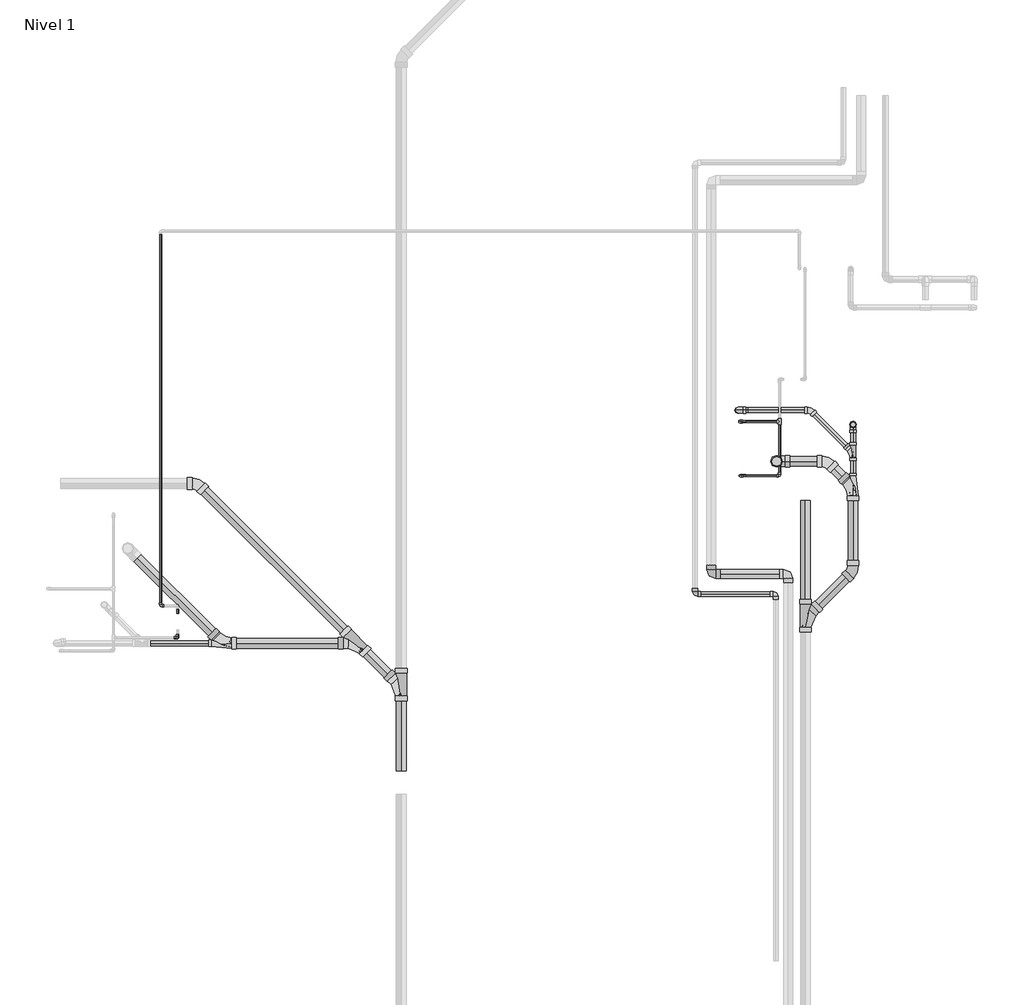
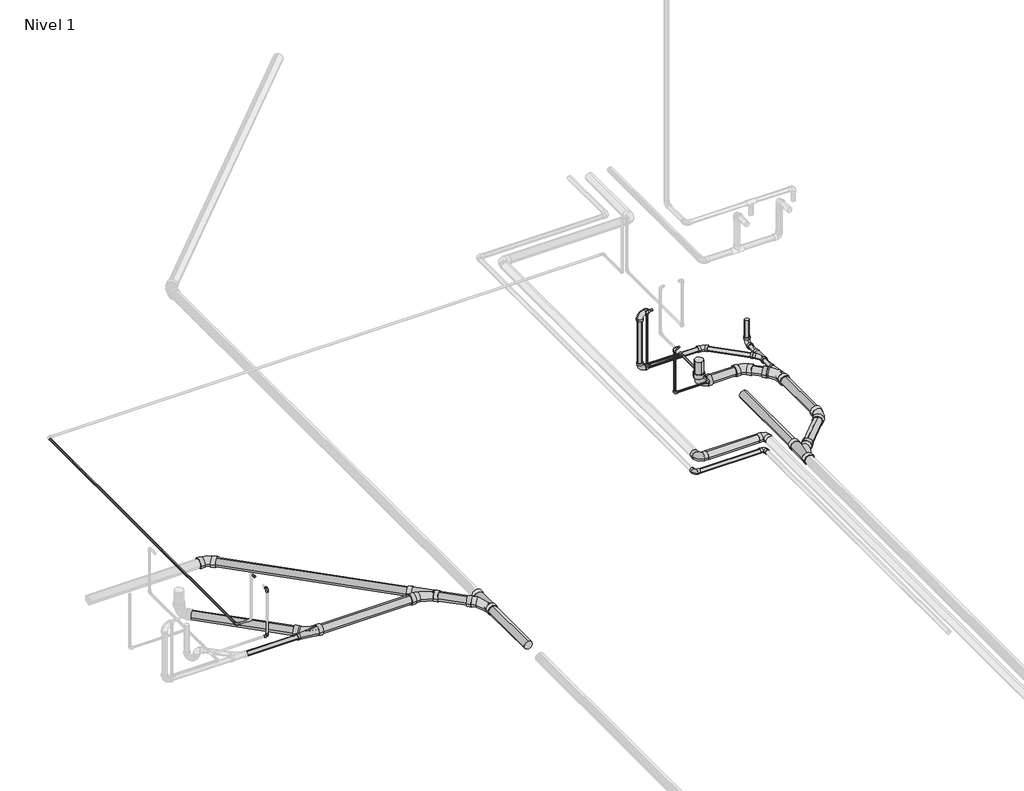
# One storey, part 2 of 3: 30 pipe segments, 27 pipe fittings.
"""IFC4 building model written with IfcOpenShell, lengths in millimetres."""

from ifc_helpers import new_model, si_unit, point, frame, frame_2d, origin, place, context, project, spatial, circle_curve, trimmed, segment, composite_curve, outline, extrude, transform, mapped, element, save
from components import pipe_fitting_ab418b84, pipe_fitting_e120c99a, pipe_fitting_0163322b, pipe_fitting_528008cb, m_codo_pvc_serie_40_457dd693, m_codo_pvc_serie_40_9ad74631, m_codo_pvc_serie_40_6fb5ae01, m_codo_pvc_serie_40_dwv1_5c0ec739, m_codo_pvc_serie_40_dwv1_f5c0a64d, m_codo_pvc_serie_40_dwv1_9a7ca077, m_codo_pvc_serie_40_dwv1_6f1a2495

model = new_model("IFC4")

# Units and contexts
model_context = context("Model", 3, world=origin())
ifc_project = project(units=[si_unit("LENGTHUNIT", "METRE", prefix="MILLI")], contexts=[model_context])

# Site, building, storey
site = spatial("IfcSite", under=ifc_project)
building = spatial("IfcBuilding", under=site)
storey = spatial("IfcBuildingStorey", under=building, Name="Nivel 1", Elevation=0.0)

# Pipe fittings
placement = place(None, origin())
pipe_fitting_shape = pipe_fitting_ab418b84(model_context)
element("IfcPipeFitting", 1, ObjectType="M_Te - PVC - Serie 40 : Estándar", at=placement, inside=storey, context=model_context, shape_type="MappedRepresentation", body=[
    mapped(pipe_fitting_shape, transform((6677.8782795, 7778.8282028, -200.0), x_axis=(0.0, -1.0, 0.0), y_axis=(1.0, 0.0, 0.0), z_axis=(0.0, 0.0, 1.0))),
])
pipe_fitting_2_shape = pipe_fitting_e120c99a(model_context)
element("IfcPipeFitting", 2, ObjectType="M_Sanitario con te de reducción - PVC - Serie 40 - DWV : Estándar", at=placement, inside=storey, context=model_context, shape_type="MappedRepresentation", body=[
    mapped(pipe_fitting_2_shape, transform((742.6986543, 5414.609291, -300.0), x_axis=(-1.0, 0.0, 0.0), y_axis=(0.0, -1.0, 0.0), z_axis=(0.0, 0.0, 1.0))),
])
element("IfcPipeFitting", 3, ObjectType="M_Sanitario con te de reducción - PVC - Serie 40 - DWV : Estándar", at=placement, inside=storey, context=model_context, shape_type="MappedRepresentation", body=[
    mapped(pipe_fitting_2_shape, transform((7460.1409493, 7078.7765457, -300.0), x_axis=(0.0, 1.0, 0.0), y_axis=(1.0, 0.0, 0.0), z_axis=(0.0, 0.0, -1.0))),
])
pipe_fitting_3_shape = pipe_fitting_0163322b(model_context)
element("IfcPipeFitting", 4, ObjectType="M_Sanitario con te de reducción - PVC - Serie 40 - DWV : Estándar", at=placement, inside=storey, context=model_context, shape_type="MappedRepresentation", body=[
    mapped(pipe_fitting_3_shape, transform((7460.1409493, 7444.8590507, -300.0), x_axis=(0.0, 1.0, 0.0), y_axis=(1.0, 0.0, 0.0), z_axis=(0.0, 0.0, -1.0))),
])
pipe_fitting_4_shape = pipe_fitting_528008cb(model_context)
element("IfcPipeFitting", 5, ObjectType="M_Sanitario con te de reducción - PVC - Serie 40 - DWV : Estándar", at=placement, inside=storey, context=model_context, shape_type="MappedRepresentation", body=[
    mapped(pipe_fitting_4_shape, transform((6952.3171047, 5680.138374, -300.0), x_axis=(0.0, 1.0, 0.0), y_axis=(-1.0, 0.0, 0.0), z_axis=(0.0, 0.0, 1.0))),
])
element("IfcPipeFitting", 6, ObjectType="M_Sanitario con te de reducción - PVC - Serie 40 - DWV : Estándar", at=placement, inside=storey, context=model_context, shape_type="MappedRepresentation", body=[
    mapped(pipe_fitting_4_shape, transform((2645.0, 4945.9167414, -300.0), x_axis=(0.0, 1.0, 0.0), y_axis=(1.0, 0.0, 0.0), z_axis=(0.0, 0.0, -1.0))),
])
element("IfcPipeFitting", 7, ObjectType="M_Sanitario con te de reducción - PVC - Serie 40 - DWV : Estándar", at=placement, inside=storey, context=model_context, shape_type="MappedRepresentation", body=[
    mapped(pipe_fitting_4_shape, transform((2176.3074504, 5414.609291, -300.0), x_axis=(-0.7071067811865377, 0.7071067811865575, 0.0), y_axis=(0.7071067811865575, 0.7071067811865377, 0.0), z_axis=(0.0, 0.0, -1.0))),
])
m_codo_pvc_serie_40_shape = m_codo_pvc_serie_40_457dd693(model_context)
element("IfcPipeFitting", 8, ObjectType="M_Codo - PVC - Serie 40 : Estándar", at=placement, inside=storey, context=model_context, shape_type="MappedRepresentation", body=[
    mapped(m_codo_pvc_serie_40_shape, transform((6636.38473, 5940.1540755, -300.0), x_axis=(0.0, 1.0, 0.0), y_axis=(-1.0, 0.0, 0.0), z_axis=(0.0, 0.0, 1.0))),
])
element("IfcPipeFitting", 9, ObjectType="M_Codo - PVC - Serie 40 : Estándar", at=placement, inside=storey, context=model_context, shape_type="MappedRepresentation", body=[
    mapped(m_codo_pvc_serie_40_shape, transform((5776.38473, 5940.1540755, -300.0), x_axis=(0.0, -1.0, 0.0), y_axis=(1.0, 0.0, 0.0), z_axis=(0.0, 0.0, 1.0))),
])
m_codo_pvc_serie_40_2_shape = m_codo_pvc_serie_40_9ad74631(model_context)
element("IfcPipeFitting", 10, ObjectType="M_Codo - PVC - Serie 40 : Estándar", at=placement, inside=storey, context=model_context, shape_type="MappedRepresentation", body=[
    mapped(m_codo_pvc_serie_40_2_shape, transform((6257.8782795, 7201.1390302, 373.1572509), x_axis=(-1.0, 0.0, 0.0), y_axis=(0.0, 0.0, -1.0), z_axis=(0.0, -1.0, 0.0))),
])
element("IfcPipeFitting", 11, ObjectType="M_Codo - PVC - Serie 40 : Estándar", at=placement, inside=storey, context=model_context, shape_type="MappedRepresentation", body=[
    mapped(m_codo_pvc_serie_40_2_shape, transform((6257.8782795, 7201.1390302, -200.0), x_axis=(0.0, 0.0, -1.0), y_axis=(1.0, 0.0, 0.0), z_axis=(0.0, -1.0, 0.0))),
])
element("IfcPipeFitting", 12, ObjectType="M_Codo - PVC - Serie 40 : Estándar", at=placement, inside=storey, context=model_context, shape_type="MappedRepresentation", body=[
    mapped(m_codo_pvc_serie_40_2_shape, transform((6252.8782795, 7778.8282028, 507.4993614), x_axis=(-1.0, 0.0, 0.0), y_axis=(0.0, 0.0, -1.0), z_axis=(0.0, -1.0, 0.0))),
])
element("IfcPipeFitting", 13, ObjectType="M_Codo - PVC - Serie 40 : Estándar", at=placement, inside=storey, context=model_context, shape_type="MappedRepresentation", body=[
    mapped(m_codo_pvc_serie_40_2_shape, transform((6252.8782795, 7778.8282028, -200.0), x_axis=(0.0, 0.0, -1.0), y_axis=(1.0, 0.0, 0.0), z_axis=(0.0, -1.0, 0.0))),
])
element("IfcPipeFitting", 14, ObjectType="M_Codo - PVC - Serie 40 : Estándar", at=placement, inside=storey, context=model_context, shape_type="MappedRepresentation", body=[
    mapped(m_codo_pvc_serie_40_2_shape, transform((6677.8782795, 7201.1390302, -200.0), x_axis=(1.0, 0.0, 0.0), y_axis=(0.0, 1.0, 0.0), z_axis=(0.0, 0.0, 1.0))),
])
element("IfcPipeFitting", 15, ObjectType="M_Codo - PVC - Serie 40 : Estándar", at=placement, inside=storey, context=model_context, shape_type="MappedRepresentation", body=[
    mapped(m_codo_pvc_serie_40_2_shape, transform((260.4324714, 5473.5673351, 400.0), x_axis=(0.0, -1.0, 0.0), y_axis=(0.0, 0.0, -1.0), z_axis=(1.0, 0.0, 0.0))),
])
element("IfcPipeFitting", 16, ObjectType="M_Codo - PVC - Serie 40 : Estándar", at=placement, inside=storey, context=model_context, shape_type="MappedRepresentation", body=[
    mapped(m_codo_pvc_serie_40_2_shape, transform((260.4324714, 5473.5673351, -200.0), x_axis=(0.0, 0.0, -1.0), y_axis=(-1.0, 0.0, 0.0), z_axis=(0.0, 1.0, 0.0))),
])
element("IfcPipeFitting", 17, ObjectType="M_Codo - PVC - Serie 40 : Estándar", at=placement, inside=storey, context=model_context, shape_type="MappedRepresentation", body=[
    mapped(m_codo_pvc_serie_40_2_shape, transform((80.4324714, 5813.5673351, -200.0), x_axis=(0.0, -1.0, 0.0), y_axis=(1.0, 0.0, 0.0), z_axis=(0.0, 0.0, 1.0))),
])
m_codo_pvc_serie_40_3_shape = m_codo_pvc_serie_40_6fb5ae01(model_context)
element("IfcPipeFitting", 18, ObjectType="M_Codo - PVC - Serie 40 : Estándar", at=placement, inside=storey, context=model_context, shape_type="MappedRepresentation", body=[
    mapped(m_codo_pvc_serie_40_3_shape, transform((6768.0875801, 6153.5650289, -300.0), x_axis=(0.0, 1.0, 0.0), y_axis=(-1.0, 0.0, 0.0), z_axis=(0.0, 0.0, 1.0))),
])
element("IfcPipeFitting", 19, ObjectType="M_Codo - PVC - Serie 40 : Estándar", at=placement, inside=storey, context=model_context, shape_type="MappedRepresentation", body=[
    mapped(m_codo_pvc_serie_40_3_shape, transform((5948.0875801, 6153.5650289, -300.0), x_axis=(0.0, -1.0, 0.0), y_axis=(1.0, 0.0, 0.0), z_axis=(0.0, 0.0, 1.0))),
])
m_codo_pvc_serie_40_dwv1_shape = m_codo_pvc_serie_40_dwv1_5c0ec739(model_context)
element("IfcPipeFitting", 20, ObjectType="M_Codo - PVC - Serie 40 - DWV1 : Estándar 2", at=placement, inside=storey, context=model_context, shape_type="MappedRepresentation", body=[
    mapped(m_codo_pvc_serie_40_dwv1_shape, transform((6235.0, 7900.0, 410.6716548), x_axis=(-1.0, 0.0, 0.0), y_axis=(0.0, 0.0, -1.0), z_axis=(0.0, -1.0, 0.0))),
])
element("IfcPipeFitting", 21, ObjectType="M_Codo - PVC - Serie 40 - DWV1 : Estándar 2", at=placement, inside=storey, context=model_context, shape_type="MappedRepresentation", body=[
    mapped(m_codo_pvc_serie_40_dwv1_shape, transform((6235.0, 7900.0, -300.0), x_axis=(0.0, 0.0, -1.0), y_axis=(1.0, 0.0, 0.0), z_axis=(0.0, -1.0, 0.0))),
])
element("IfcPipeFitting", 22, ObjectType="M_Codo - PVC - Serie 40 - DWV1 : Estándar 2", at=placement, inside=storey, context=model_context, shape_type="MappedRepresentation", body=[
    mapped(m_codo_pvc_serie_40_dwv1_shape, transform((7460.1409493, 7746.4088589, -300.0), x_axis=(0.0, 1.0, 0.0), y_axis=(0.0, 0.0, 1.0), z_axis=(1.0, 0.0, 0.0))),
])
m_codo_pvc_serie_40_dwv1_2_shape = m_codo_pvc_serie_40_dwv1_f5c0a64d(model_context)
element("IfcPipeFitting", 23, ObjectType="M_Codo - PVC - Serie 40 - DWV1 : Estándar 2", at=placement, inside=storey, context=model_context, shape_type="MappedRepresentation", body=[
    mapped(m_codo_pvc_serie_40_dwv1_2_shape, transform((6644.2960274, 7354.6214677, -300.0), x_axis=(0.0, 0.0, -1.0), y_axis=(1.0, 0.0, 0.0), z_axis=(0.0, -1.0, 0.0))),
])
m_codo_pvc_serie_40_dwv1_3_shape = m_codo_pvc_serie_40_dwv1_9a7ca077(model_context)
element("IfcPipeFitting", 24, ObjectType="M_Codo - PVC - Serie 40 - DWV1 : Estándar 2", at=placement, inside=storey, context=model_context, shape_type="MappedRepresentation", body=[
    mapped(m_codo_pvc_serie_40_dwv1_3_shape, transform((7184.2960274, 7354.6214677, -300.0), x_axis=(-0.7071067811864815, 0.7071067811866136, 0.0), y_axis=(-0.7071067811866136, -0.7071067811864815, 0.0), z_axis=(0.0, 0.0, 1.0))),
])
element("IfcPipeFitting", 25, ObjectType="M_Codo - PVC - Serie 40 - DWV1 : Estándar 2", at=placement, inside=storey, context=model_context, shape_type="MappedRepresentation", body=[
    mapped(m_codo_pvc_serie_40_dwv1_3_shape, transform((7460.1409493, 6187.9622186, -300.0), x_axis=(0.70710678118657, 0.707106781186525, 0.0), y_axis=(-0.707106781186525, 0.70710678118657, 0.0), z_axis=(0.0, 0.0, 1.0))),
])
element("IfcPipeFitting", 26, ObjectType="M_Codo - PVC - Serie 40 - DWV1 : Estándar 2", at=placement, inside=storey, context=model_context, shape_type="MappedRepresentation", body=[
    mapped(m_codo_pvc_serie_40_dwv1_3_shape, transform((471.6123434, 7119.3043981, -300.0), x_axis=(-0.7071067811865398, 0.7071067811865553, 0.0), y_axis=(-0.7071067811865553, -0.7071067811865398, 0.0), z_axis=(0.0, 0.0, 1.0))),
])
m_codo_pvc_serie_40_dwv1_4_shape = m_codo_pvc_serie_40_dwv1_6f1a2495(model_context)
element("IfcPipeFitting", 27, ObjectType="M_Codo - PVC - Serie 40 - DWV1 : Estándar 2", at=placement, inside=storey, context=model_context, shape_type="MappedRepresentation", body=[
    mapped(m_codo_pvc_serie_40_dwv1_4_shape, transform((7005.0, 7900.0, -300.0), x_axis=(-0.7071067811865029, 0.7071067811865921, 0.0), y_axis=(-0.7071067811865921, -0.7071067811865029, 0.0), z_axis=(0.0, 0.0, 1.0))),
])

# Pipe segments
element("IfcPipeSegment", 28, ObjectType="Tuberia PVC Agua Fria", at=placement, inside=storey, context=model_context, shape_type="SweptSolid", body=[
    extrude(outline(composite_curve([segment(trimmed(circle_curve(frame_2d((5940.1540755, -300.0)), 23.8125), [point((5963.9665755, -300.0))], [point((5940.1540755, -323.8125))], False, "CARTESIAN"), True, "CONTINUOUS"), segment(trimmed(circle_curve(frame_2d((5940.1540755, -300.0)), 23.8125), [point((5940.1540755, -323.8125))], [point((5916.3415755, -300.0))], False, "CARTESIAN"), True, "CONTINUOUS"), segment(trimmed(circle_curve(frame_2d((5940.1540755, -300.0)), 23.8125), [point((5916.3415755, -300.0))], [point((5940.1540755, -276.1875))], False, "CARTESIAN"), True, "CONTINUOUS"), segment(trimmed(circle_curve(frame_2d((5940.1540755, -300.0)), 23.8125), [point((5940.1540755, -276.1875))], [point((5963.9665755, -300.0))], False, "CARTESIAN"), True, "CONTINUOUS")], self_intersect=False)), frame((5835.31273, 0.0, 0.0), z_axis=(1.0, 0.0, 0.0), x_axis=(0.0, 1.0, 0.0)), (0.0, 0.0, 1.0), 742.144),
])
element("IfcPipeSegment", 29, ObjectType="Tuberia PVC Agua Fria", at=placement, inside=storey, context=model_context, shape_type="SweptSolid", body=[
    extrude(outline(composite_curve([segment(trimmed(circle_curve(frame_2d((7201.1390302, 373.1572509)), 10.31875), [point((7211.4577802, 373.1572509))], [point((7201.1390302, 362.8385009))], False, "CARTESIAN"), True, "CONTINUOUS"), segment(trimmed(circle_curve(frame_2d((7201.1390302, 373.1572509)), 10.31875), [point((7201.1390302, 362.8385009))], [point((7190.8202802, 373.1572509))], False, "CARTESIAN"), True, "CONTINUOUS"), segment(trimmed(circle_curve(frame_2d((7201.1390302, 373.1572509)), 10.31875), [point((7190.8202802, 373.1572509))], [point((7201.1390302, 383.4760009))], False, "CARTESIAN"), True, "CONTINUOUS"), segment(trimmed(circle_curve(frame_2d((7201.1390302, 373.1572509)), 10.31875), [point((7201.1390302, 383.4760009))], [point((7211.4577802, 373.1572509))], False, "CARTESIAN"), True, "CONTINUOUS")], self_intersect=False)), frame((6291.2792795, 0.0, 0.0), z_axis=(1.0, 0.0, 0.0), x_axis=(0.0, 1.0, 0.0)), (0.0, 0.0, 1.0), 26.599),
])
element("IfcPipeSegment", 30, ObjectType="Tuberia PVC Agua Fria", at=placement, inside=storey, context=model_context, shape_type="SweptSolid", body=[
    extrude(outline(composite_curve([segment(trimmed(circle_curve(frame_2d((7201.1390302, -200.0)), 10.31875), [point((7190.8202802, -200.0))], [point((7201.1390302, -189.68125))], False, "CARTESIAN"), True, "CONTINUOUS"), segment(trimmed(circle_curve(frame_2d((7201.1390302, -200.0)), 10.31875), [point((7201.1390302, -189.68125))], [point((7211.4577802, -200.0))], False, "CARTESIAN"), True, "CONTINUOUS"), segment(trimmed(circle_curve(frame_2d((7201.1390302, -200.0)), 10.31875), [point((7211.4577802, -200.0))], [point((7201.1390302, -210.31875))], False, "CARTESIAN"), True, "CONTINUOUS"), segment(trimmed(circle_curve(frame_2d((7201.1390302, -200.0)), 10.31875), [point((7201.1390302, -210.31875))], [point((7190.8202802, -200.0))], False, "CARTESIAN"), True, "CONTINUOUS")], self_intersect=False)), frame((6291.2792795, 0.0, 0.0), z_axis=(1.0, 0.0, 0.0), x_axis=(0.0, 1.0, 0.0)), (0.0, 0.0, 1.0), 353.198),
])
element("IfcPipeSegment", 31, ObjectType="Tuberia PVC Agua Fria", at=placement, inside=storey, context=model_context, shape_type="SweptSolid", body=[
    extrude(outline(composite_curve([segment(trimmed(circle_curve(frame_2d((6257.8782795, 7201.1390302)), 10.31875), [point((6268.1970295, 7201.1390302))], [point((6257.8782795, 7190.8202802))], False, "CARTESIAN"), True, "CONTINUOUS"), segment(trimmed(circle_curve(frame_2d((6257.8782795, 7201.1390302)), 10.31875), [point((6257.8782795, 7190.8202802))], [point((6247.5595295, 7201.1390302))], False, "CARTESIAN"), True, "CONTINUOUS"), segment(trimmed(circle_curve(frame_2d((6257.8782795, 7201.1390302)), 10.31875), [point((6247.5595295, 7201.1390302))], [point((6257.8782795, 7211.4577802))], False, "CARTESIAN"), True, "CONTINUOUS"), segment(trimmed(circle_curve(frame_2d((6257.8782795, 7201.1390302)), 10.31875), [point((6257.8782795, 7211.4577802))], [point((6268.1970295, 7201.1390302))], False, "CARTESIAN"), True, "CONTINUOUS")], self_intersect=False)), frame((0.0, 0.0, -166.599), z_axis=(0.0, 0.0, 1.0), x_axis=(1.0, 0.0, 0.0)), (0.0, 0.0, 1.0), 506.3552509),
])
element("IfcPipeSegment", 32, ObjectType="Tuberia PVC Agua Fria", at=placement, inside=storey, context=model_context, shape_type="SweptSolid", body=[
    extrude(outline(composite_curve([segment(trimmed(circle_curve(frame_2d((7778.8282028, 507.4993614)), 10.31875), [point((7789.1469528, 507.4993614))], [point((7778.8282028, 497.1806114))], False, "CARTESIAN"), True, "CONTINUOUS"), segment(trimmed(circle_curve(frame_2d((7778.8282028, 507.4993614)), 10.31875), [point((7778.8282028, 497.1806114))], [point((7768.5094528, 507.4993614))], False, "CARTESIAN"), True, "CONTINUOUS"), segment(trimmed(circle_curve(frame_2d((7778.8282028, 507.4993614)), 10.31875), [point((7768.5094528, 507.4993614))], [point((7778.8282028, 517.8181114))], False, "CARTESIAN"), True, "CONTINUOUS"), segment(trimmed(circle_curve(frame_2d((7778.8282028, 507.4993614)), 10.31875), [point((7778.8282028, 517.8181114))], [point((7789.1469528, 507.4993614))], False, "CARTESIAN"), True, "CONTINUOUS")], self_intersect=False)), frame((6286.2792795, 0.0, 0.0), z_axis=(1.0, 0.0, 0.0), x_axis=(0.0, 1.0, 0.0)), (0.0, 0.0, 1.0), 31.599),
])
element("IfcPipeSegment", 33, ObjectType="Tuberia PVC Agua Fria", at=placement, inside=storey, context=model_context, shape_type="SweptSolid", body=[
    extrude(outline(composite_curve([segment(trimmed(circle_curve(frame_2d((7778.8282028, -200.0)), 10.31875), [point((7768.5094528, -200.0))], [point((7778.8282028, -189.68125))], False, "CARTESIAN"), True, "CONTINUOUS"), segment(trimmed(circle_curve(frame_2d((7778.8282028, -200.0)), 10.31875), [point((7778.8282028, -189.68125))], [point((7789.1469528, -200.0))], False, "CARTESIAN"), True, "CONTINUOUS"), segment(trimmed(circle_curve(frame_2d((7778.8282028, -200.0)), 10.31875), [point((7789.1469528, -200.0))], [point((7778.8282028, -210.31875))], False, "CARTESIAN"), True, "CONTINUOUS"), segment(trimmed(circle_curve(frame_2d((7778.8282028, -200.0)), 10.31875), [point((7778.8282028, -210.31875))], [point((7768.5094528, -200.0))], False, "CARTESIAN"), True, "CONTINUOUS")], self_intersect=False)), frame((6286.2792795, 0.0, 0.0), z_axis=(1.0, 0.0, 0.0), x_axis=(0.0, 1.0, 0.0)), (0.0, 0.0, 1.0), 361.1388438),
])
element("IfcPipeSegment", 34, ObjectType="Tuberia PVC Agua Fria", at=placement, inside=storey, context=model_context, shape_type="SweptSolid", body=[
    extrude(outline(composite_curve([segment(trimmed(circle_curve(frame_2d((6252.8782795, 7778.8282028)), 10.31875), [point((6263.1970295, 7778.8282028))], [point((6252.8782795, 7768.5094528))], False, "CARTESIAN"), True, "CONTINUOUS"), segment(trimmed(circle_curve(frame_2d((6252.8782795, 7778.8282028)), 10.31875), [point((6252.8782795, 7768.5094528))], [point((6242.5595295, 7778.8282028))], False, "CARTESIAN"), True, "CONTINUOUS"), segment(trimmed(circle_curve(frame_2d((6252.8782795, 7778.8282028)), 10.31875), [point((6242.5595295, 7778.8282028))], [point((6252.8782795, 7789.1469528))], False, "CARTESIAN"), True, "CONTINUOUS"), segment(trimmed(circle_curve(frame_2d((6252.8782795, 7778.8282028)), 10.31875), [point((6252.8782795, 7789.1469528))], [point((6263.1970295, 7778.8282028))], False, "CARTESIAN"), True, "CONTINUOUS")], self_intersect=False)), frame((0.0, 0.0, -166.599), z_axis=(0.0, 0.0, 1.0), x_axis=(1.0, 0.0, 0.0)), (0.0, 0.0, 1.0), 640.6973614),
])
element("IfcPipeSegment", 35, ObjectType="Tuberia PVC Agua Fria", at=placement, inside=storey, context=model_context, shape_type="SweptSolid", body=[
    extrude(outline(composite_curve([segment(trimmed(circle_curve(frame_2d((-200.0, 6677.8782795)), 10.31875), [point((-200.0, 6688.1970295))], [point((-189.68125, 6677.8782795))], False, "CARTESIAN"), True, "CONTINUOUS"), segment(trimmed(circle_curve(frame_2d((-200.0, 6677.8782795)), 10.31875), [point((-189.68125, 6677.8782795))], [point((-200.0, 6667.5595295))], False, "CARTESIAN"), True, "CONTINUOUS"), segment(trimmed(circle_curve(frame_2d((-200.0, 6677.8782795)), 10.31875), [point((-200.0, 6667.5595295))], [point((-210.31875, 6677.8782795))], False, "CARTESIAN"), True, "CONTINUOUS"), segment(trimmed(circle_curve(frame_2d((-200.0, 6677.8782795)), 10.31875), [point((-210.31875, 6677.8782795))], [point((-200.0, 6688.1970295))], False, "CARTESIAN"), True, "CONTINUOUS")], self_intersect=False)), frame((0.0, 7234.5400302, 0.0), z_axis=(0.0, 1.0, 0.0), x_axis=(0.0, 0.0, 1.0)), (0.0, 0.0, 1.0), 513.8280164),
])
element("IfcPipeSegment", 36, ObjectType="Tuberia PVC Agua Fria", at=placement, inside=storey, context=model_context, shape_type="SweptSolid", body=[
    extrude(outline(composite_curve([segment(trimmed(circle_curve(frame_2d((-200.0, 80.4324714)), 10.31875), [point((-200.0, 70.1137214))], [point((-210.31875, 80.4324714))], False, "CARTESIAN"), True, "CONTINUOUS"), segment(trimmed(circle_curve(frame_2d((-200.0, 80.4324714)), 10.31875), [point((-210.31875, 80.4324714))], [point((-200.0, 90.7512214))], False, "CARTESIAN"), True, "CONTINUOUS"), segment(trimmed(circle_curve(frame_2d((-200.0, 80.4324714)), 10.31875), [point((-200.0, 90.7512214))], [point((-189.68125, 80.4324714))], False, "CARTESIAN"), True, "CONTINUOUS"), segment(trimmed(circle_curve(frame_2d((-200.0, 80.4324714)), 10.31875), [point((-189.68125, 80.4324714))], [point((-200.0, 70.1137214))], False, "CARTESIAN"), True, "CONTINUOUS")], self_intersect=False)), frame((0.0, 5846.9683351, 0.0), z_axis=(0.0, 1.0, 0.0), x_axis=(0.0, 0.0, 1.0)), (0.0, 0.0, 1.0), 3930.9098457),
])
element("IfcPipeSegment", 37, ObjectType="Tuberia PVC Agua Fria", at=placement, inside=storey, context=model_context, shape_type="SweptSolid", body=[
    extrude(outline(composite_curve([segment(trimmed(circle_curve(frame_2d((6153.5650289, -300.0)), 49.2125), [point((6202.7775289, -300.0))], [point((6153.5650289, -349.2125))], False, "CARTESIAN"), True, "CONTINUOUS"), segment(trimmed(circle_curve(frame_2d((6153.5650289, -300.0)), 49.2125), [point((6153.5650289, -349.2125))], [point((6104.3525289, -300.0))], False, "CARTESIAN"), True, "CONTINUOUS"), segment(trimmed(circle_curve(frame_2d((6153.5650289, -300.0)), 49.2125), [point((6104.3525289, -300.0))], [point((6153.5650289, -250.7875))], False, "CARTESIAN"), True, "CONTINUOUS"), segment(trimmed(circle_curve(frame_2d((6153.5650289, -300.0)), 49.2125), [point((6153.5650289, -250.7875))], [point((6202.7775289, -300.0))], False, "CARTESIAN"), True, "CONTINUOUS")], self_intersect=False)), frame((6045.3060801, 0.0, 0.0), z_axis=(1.0, 0.0, 0.0), x_axis=(0.0, 1.0, 0.0)), (0.0, 0.0, 1.0), 625.563),
])
element("IfcPipeSegment", 38, ObjectType="Tuberia PVC Agua Fria", at=placement, inside=storey, context=model_context, shape_type="SweptSolid", body=[
    extrude(outline(composite_curve([segment(trimmed(circle_curve(frame_2d((400.0, 260.4324714)), 10.31875), [point((400.0, 250.1137214))], [point((389.68125, 260.4324714))], False, "CARTESIAN"), True, "CONTINUOUS"), segment(trimmed(circle_curve(frame_2d((400.0, 260.4324714)), 10.31875), [point((389.68125, 260.4324714))], [point((400.0, 270.7512214))], False, "CARTESIAN"), True, "CONTINUOUS"), segment(trimmed(circle_curve(frame_2d((400.0, 260.4324714)), 10.31875), [point((400.0, 270.7512214))], [point((410.31875, 260.4324714))], False, "CARTESIAN"), True, "CONTINUOUS"), segment(trimmed(circle_curve(frame_2d((400.0, 260.4324714)), 10.31875), [point((410.31875, 260.4324714))], [point((400.0, 250.1137214))], False, "CARTESIAN"), True, "CONTINUOUS")], self_intersect=False)), frame((0.0, 5732.5673351, 0.0), z_axis=(0.0, 1.0, 0.0), x_axis=(0.0, 0.0, 1.0)), (0.0, 0.0, 1.0), 47.599),
])
element("IfcPipeSegment", 39, ObjectType="Tuberia PVC Sanitario", at=placement, inside=storey, context=model_context, shape_type="SweptSolid", body=[
    extrude(outline(composite_curve([segment(trimmed(circle_curve(frame_2d((5414.609291, -300.0)), 26.9875), [point((5387.621791, -300.0))], [point((5414.609291, -273.0125))], False, "CARTESIAN"), True, "CONTINUOUS"), segment(trimmed(circle_curve(frame_2d((5414.609291, -300.0)), 26.9875), [point((5414.609291, -273.0125))], [point((5441.596791, -300.0))], False, "CARTESIAN"), True, "CONTINUOUS"), segment(trimmed(circle_curve(frame_2d((5414.609291, -300.0)), 26.9875), [point((5441.596791, -300.0))], [point((5414.609291, -326.9875))], False, "CARTESIAN"), True, "CONTINUOUS"), segment(trimmed(circle_curve(frame_2d((5414.609291, -300.0)), 26.9875), [point((5414.609291, -326.9875))], [point((5387.621791, -300.0))], False, "CARTESIAN"), True, "CONTINUOUS")], self_intersect=False)), frame((-29.6363243, 0.0, 0.0), z_axis=(1.0, 0.0, 0.0), x_axis=(0.0, 1.0, 0.0)), (0.0, 0.0, 1.0), 624.7026653),
])
element("IfcPipeSegment", 40, ObjectType="Tuberia PVC Sanitario", at=placement, inside=storey, context=model_context, shape_type="SweptSolid", body=[
    extrude(outline(composite_curve([segment(trimmed(circle_curve(frame_2d((0.0, -52.3875)), 52.3875), [point((-52.3875, -52.3875))], [point((0.0, 0.0))], False, "CARTESIAN"), True, "CONTINUOUS"), segment(trimmed(circle_curve(frame_2d((0.0, -52.3875)), 52.3875), [point((0.0, 0.0))], [point((52.3875, -52.3875))], False, "CARTESIAN"), True, "CONTINUOUS"), segment(trimmed(circle_curve(frame_2d((0.0, -52.3875)), 52.3875), [point((52.3875, -52.3875))], [point((0.0, -104.775))], False, "CARTESIAN"), True, "CONTINUOUS"), segment(trimmed(circle_curve(frame_2d((0.0, -52.3875)), 52.3875), [point((0.0, -104.775))], [point((-52.3875, -52.3875))], False, "CARTESIAN"), True, "CONTINUOUS")], self_intersect=False)), frame((628.0217688, 5529.2861765, -352.3875), z_axis=(-0.7071067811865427, 0.7071067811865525, 0.0), x_axis=(0.7071067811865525, 0.7071067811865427, 0.0)), (0.0, 0.0, 1.0), 1126.2561424),
])
element("IfcPipeSegment", 41, ObjectType="Tuberia PVC Sanitario", at=placement, inside=storey, context=model_context, shape_type="SweptSolid", body=[
    extrude(outline(composite_curve([segment(trimmed(circle_curve(frame_2d((5414.609291, -300.0)), 52.3875), [point((5362.221791, -300.0))], [point((5414.609291, -247.6125))], False, "CARTESIAN"), True, "CONTINUOUS"), segment(trimmed(circle_curve(frame_2d((5414.609291, -300.0)), 52.3875), [point((5414.609291, -247.6125))], [point((5466.996791, -300.0))], False, "CARTESIAN"), True, "CONTINUOUS"), segment(trimmed(circle_curve(frame_2d((5414.609291, -300.0)), 52.3875), [point((5466.996791, -300.0))], [point((5414.609291, -352.3875))], False, "CARTESIAN"), True, "CONTINUOUS"), segment(trimmed(circle_curve(frame_2d((5414.609291, -300.0)), 52.3875), [point((5414.609291, -352.3875))], [point((5362.221791, -300.0))], False, "CARTESIAN"), True, "CONTINUOUS")], self_intersect=False)), frame((886.593369, 0.0, 0.0), z_axis=(1.0, 0.0, 0.0), x_axis=(0.0, 1.0, 0.0)), (0.0, 0.0, 1.0), 1088.7417682),
])
element("IfcPipeSegment", 42, ObjectType="Tuberia PVC Sanitario", at=placement, inside=storey, context=model_context, shape_type="SweptSolid", body=[
    extrude(outline(composite_curve([segment(trimmed(circle_curve(frame_2d((7354.6214677, -300.0)), 52.3875), [point((7302.2339677, -300.0))], [point((7354.6214677, -247.6125))], False, "CARTESIAN"), True, "CONTINUOUS"), segment(trimmed(circle_curve(frame_2d((7354.6214677, -300.0)), 52.3875), [point((7354.6214677, -247.6125))], [point((7407.0089677, -300.0))], False, "CARTESIAN"), True, "CONTINUOUS"), segment(trimmed(circle_curve(frame_2d((7354.6214677, -300.0)), 52.3875), [point((7407.0089677, -300.0))], [point((7354.6214677, -352.3875))], False, "CARTESIAN"), True, "CONTINUOUS"), segment(trimmed(circle_curve(frame_2d((7354.6214677, -300.0)), 52.3875), [point((7354.6214677, -352.3875))], [point((7302.2339677, -300.0))], False, "CARTESIAN"), True, "CONTINUOUS")], self_intersect=False)), frame((6785.7660899, 0.0, 0.0), z_axis=(1.0, 0.0, 0.0), x_axis=(0.0, 1.0, 0.0)), (0.0, 0.0, 1.0), 291.36575),
])
element("IfcPipeSegment", 43, ObjectType="Tuberia PVC Sanitario", at=placement, inside=storey, context=model_context, shape_type="SweptSolid", body=[
    extrude(outline(composite_curve([segment(trimmed(circle_curve(frame_2d((6644.2960274, 7354.6214677)), 52.3875), [point((6696.6835274, 7354.6214677))], [point((6644.2960274, 7302.2339677))], False, "CARTESIAN"), True, "CONTINUOUS"), segment(trimmed(circle_curve(frame_2d((6644.2960274, 7354.6214677)), 52.3875), [point((6644.2960274, 7302.2339677))], [point((6591.9085274, 7354.6214677))], False, "CARTESIAN"), True, "CONTINUOUS"), segment(trimmed(circle_curve(frame_2d((6644.2960274, 7354.6214677)), 52.3875), [point((6591.9085274, 7354.6214677))], [point((6644.2960274, 7407.0089677))], False, "CARTESIAN"), True, "CONTINUOUS"), segment(trimmed(circle_curve(frame_2d((6644.2960274, 7354.6214677)), 52.3875), [point((6644.2960274, 7407.0089677))], [point((6696.6835274, 7354.6214677))], False, "CARTESIAN"), True, "CONTINUOUS")], self_intersect=False)), frame((0.0, 0.0, -158.5299375), z_axis=(0.0, 0.0, 1.0), x_axis=(1.0, 0.0, 0.0)), (0.0, 0.0, 1.0), 158.5299375),
])
element("IfcPipeSegment", 44, ObjectType="Tuberia PVC Sanitario", at=placement, inside=storey, context=model_context, shape_type="SweptSolid", body=[
    extrude(outline(composite_curve([segment(trimmed(circle_curve(frame_2d((7900.0, 410.6716548)), 26.9875), [point((7926.9875, 410.6716548))], [point((7900.0, 383.6841548))], False, "CARTESIAN"), True, "CONTINUOUS"), segment(trimmed(circle_curve(frame_2d((7900.0, 410.6716548)), 26.9875), [point((7900.0, 383.6841548))], [point((7873.0125, 410.6716548))], False, "CARTESIAN"), True, "CONTINUOUS"), segment(trimmed(circle_curve(frame_2d((7900.0, 410.6716548)), 26.9875), [point((7873.0125, 410.6716548))], [point((7900.0, 437.6591548))], False, "CARTESIAN"), True, "CONTINUOUS"), segment(trimmed(circle_curve(frame_2d((7900.0, 410.6716548)), 26.9875), [point((7900.0, 437.6591548))], [point((7926.9875, 410.6716548))], False, "CARTESIAN"), True, "CONTINUOUS")], self_intersect=False)), frame((6317.5420625, 0.0, 0.0), z_axis=(1.0, 0.0, 0.0), x_axis=(0.0, 1.0, 0.0)), (0.0, 0.0, 1.0), 17.4579375),
])
element("IfcPipeSegment", 45, ObjectType="Tuberia PVC Sanitario", at=placement, inside=storey, context=model_context, shape_type="SweptSolid", body=[
    extrude(outline(composite_curve([segment(trimmed(circle_curve(frame_2d((7900.0, -300.0)), 26.9875), [point((7873.0125, -300.0))], [point((7900.0, -273.0125))], False, "CARTESIAN"), True, "CONTINUOUS"), segment(trimmed(circle_curve(frame_2d((7900.0, -300.0)), 26.9875), [point((7900.0, -273.0125))], [point((7926.9875, -300.0))], False, "CARTESIAN"), True, "CONTINUOUS"), segment(trimmed(circle_curve(frame_2d((7900.0, -300.0)), 26.9875), [point((7926.9875, -300.0))], [point((7900.0, -326.9875))], False, "CARTESIAN"), True, "CONTINUOUS"), segment(trimmed(circle_curve(frame_2d((7900.0, -300.0)), 26.9875), [point((7900.0, -326.9875))], [point((7873.0125, -300.0))], False, "CARTESIAN"), True, "CONTINUOUS")], self_intersect=False)), frame((6317.5420625, 0.0, 0.0), z_axis=(1.0, 0.0, 0.0), x_axis=(0.0, 1.0, 0.0)), (0.0, 0.0, 1.0), 627.02975),
])
element("IfcPipeSegment", 46, ObjectType="Tuberia PVC Sanitario", at=placement, inside=storey, context=model_context, shape_type="SweptSolid", body=[
    extrude(outline(composite_curve([segment(trimmed(circle_curve(frame_2d((6235.0, 7900.0)), 26.9875), [point((6261.9875, 7900.0))], [point((6235.0, 7873.0125))], False, "CARTESIAN"), True, "CONTINUOUS"), segment(trimmed(circle_curve(frame_2d((6235.0, 7900.0)), 26.9875), [point((6235.0, 7873.0125))], [point((6208.0125, 7900.0))], False, "CARTESIAN"), True, "CONTINUOUS"), segment(trimmed(circle_curve(frame_2d((6235.0, 7900.0)), 26.9875), [point((6208.0125, 7900.0))], [point((6235.0, 7926.9875))], False, "CARTESIAN"), True, "CONTINUOUS"), segment(trimmed(circle_curve(frame_2d((6235.0, 7900.0)), 26.9875), [point((6235.0, 7926.9875))], [point((6261.9875, 7900.0))], False, "CARTESIAN"), True, "CONTINUOUS")], self_intersect=False)), frame((0.0, 0.0, -217.4579375), z_axis=(0.0, 0.0, 1.0), x_axis=(1.0, 0.0, 0.0)), (0.0, 0.0, 1.0), 545.5875298),
])
element("IfcPipeSegment", 47, ObjectType="Tuberia PVC Sanitario", at=placement, inside=storey, context=model_context, shape_type="SweptSolid", body=[
    extrude(outline(composite_curve([segment(trimmed(circle_curve(frame_2d((-300.0, 7460.1409493)), 52.3875), [point((-300.0, 7407.7534493))], [point((-352.3875, 7460.1409493))], False, "CARTESIAN"), True, "CONTINUOUS"), segment(trimmed(circle_curve(frame_2d((-300.0, 7460.1409493)), 52.3875), [point((-352.3875, 7460.1409493))], [point((-300.0, 7512.5284493))], False, "CARTESIAN"), True, "CONTINUOUS"), segment(trimmed(circle_curve(frame_2d((-300.0, 7460.1409493)), 52.3875), [point((-300.0, 7512.5284493))], [point((-247.6125, 7460.1409493))], False, "CARTESIAN"), True, "CONTINUOUS"), segment(trimmed(circle_curve(frame_2d((-300.0, 7460.1409493)), 52.3875), [point((-247.6125, 7460.1409493))], [point((-300.0, 7407.7534493))], False, "CARTESIAN"), True, "CONTINUOUS")], self_intersect=False)), frame((0.0, 6295.1264061, 0.0), z_axis=(0.0, 1.0, 0.0), x_axis=(0.0, 0.0, 1.0)), (0.0, 0.0, 1.0), 639.7554249),
])
element("IfcPipeSegment", 48, ObjectType="Tuberia PVC Sanitario", at=placement, inside=storey, context=model_context, shape_type="SweptSolid", body=[
    extrude(outline(composite_curve([segment(trimmed(circle_curve(frame_2d((0.0, 52.3875)), 52.3875), [point((52.3875, 52.3875))], [point((0.0, 0.0))], False, "CARTESIAN"), True, "CONTINUOUS"), segment(trimmed(circle_curve(frame_2d((0.0, 52.3875)), 52.3875), [point((0.0, 0.0))], [point((-52.3875, 52.3875))], False, "CARTESIAN"), True, "CONTINUOUS"), segment(trimmed(circle_curve(frame_2d((0.0, 52.3875)), 52.3875), [point((-52.3875, 52.3875))], [point((0.0, 104.775))], False, "CARTESIAN"), True, "CONTINUOUS"), segment(trimmed(circle_curve(frame_2d((0.0, 52.3875)), 52.3875), [point((0.0, 104.775))], [point((52.3875, 52.3875))], False, "CARTESIAN"), True, "CONTINUOUS")], self_intersect=False)), frame((7345.4640638, 7193.4534312, -247.6125), z_axis=(-0.7071067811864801, 0.7071067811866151, 0.0), x_axis=(0.7071067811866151, 0.7071067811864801, 0.0)), (0.0, 0.0, 1.0), 120.7618355),
])
element("IfcPipeSegment", 49, ObjectType="Tuberia PVC Sanitario", at=placement, inside=storey, context=model_context, shape_type="SweptSolid", body=[
    extrude(outline(composite_curve([segment(trimmed(circle_curve(frame_2d((0.0, 26.9875)), 26.9875), [point((26.9875, 26.9875))], [point((0.0, 0.0))], False, "CARTESIAN"), True, "CONTINUOUS"), segment(trimmed(circle_curve(frame_2d((0.0, 26.9875)), 26.9875), [point((0.0, 0.0))], [point((-26.9875, 26.9875))], False, "CARTESIAN"), True, "CONTINUOUS"), segment(trimmed(circle_curve(frame_2d((0.0, 26.9875)), 26.9875), [point((-26.9875, 26.9875))], [point((0.0, 53.975))], False, "CARTESIAN"), True, "CONTINUOUS"), segment(trimmed(circle_curve(frame_2d((0.0, 26.9875)), 26.9875), [point((0.0, 53.975))], [point((26.9875, 26.9875))], False, "CARTESIAN"), True, "CONTINUOUS")], self_intersect=False)), frame((7383.1811395, 7521.8188605, -273.0125), z_axis=(-0.7071067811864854, 0.7071067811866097, 0.0), x_axis=(0.7071067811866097, 0.7071067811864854, 0.0)), (0.0, 0.0, 1.0), 474.400709),
])
element("IfcPipeSegment", 50, ObjectType="Tuberia PVC Sanitario", at=placement, inside=storey, context=model_context, shape_type="SweptSolid", body=[
    extrude(outline(composite_curve([segment(trimmed(circle_curve(frame_2d((-300.0, 7460.1409493)), 26.9875), [point((-300.0, 7487.1284493))], [point((-273.0125, 7460.1409493))], False, "CARTESIAN"), True, "CONTINUOUS"), segment(trimmed(circle_curve(frame_2d((-300.0, 7460.1409493)), 26.9875), [point((-273.0125, 7460.1409493))], [point((-300.0, 7433.1534493))], False, "CARTESIAN"), True, "CONTINUOUS"), segment(trimmed(circle_curve(frame_2d((-300.0, 7460.1409493)), 26.9875), [point((-300.0, 7433.1534493))], [point((-326.9875, 7460.1409493))], False, "CARTESIAN"), True, "CONTINUOUS"), segment(trimmed(circle_curve(frame_2d((-300.0, 7460.1409493)), 26.9875), [point((-326.9875, 7460.1409493))], [point((-300.0, 7487.1284493))], False, "CARTESIAN"), True, "CONTINUOUS")], self_intersect=False)), frame((0.0, 7553.6966574, 0.0), z_axis=(0.0, 1.0, 0.0), x_axis=(0.0, 0.0, 1.0)), (0.0, 0.0, 1.0), 110.1701389),
])
element("IfcPipeSegment", 51, ObjectType="Tuberia PVC Sanitario", at=placement, inside=storey, context=model_context, shape_type="SweptSolid", body=[
    extrude(outline(composite_curve([segment(trimmed(circle_curve(frame_2d((-300.0, 7460.1409493)), 26.9875), [point((-300.0, 7487.1284493))], [point((-273.0125, 7460.1409493))], False, "CARTESIAN"), True, "CONTINUOUS"), segment(trimmed(circle_curve(frame_2d((-300.0, 7460.1409493)), 26.9875), [point((-273.0125, 7460.1409493))], [point((-300.0, 7433.1534493))], False, "CARTESIAN"), True, "CONTINUOUS"), segment(trimmed(circle_curve(frame_2d((-300.0, 7460.1409493)), 26.9875), [point((-300.0, 7433.1534493))], [point((-326.9875, 7460.1409493))], False, "CARTESIAN"), True, "CONTINUOUS"), segment(trimmed(circle_curve(frame_2d((-300.0, 7460.1409493)), 26.9875), [point((-326.9875, 7460.1409493))], [point((-300.0, 7487.1284493))], False, "CARTESIAN"), True, "CONTINUOUS")], self_intersect=False)), frame((0.0, 7226.4088589, 0.0), z_axis=(0.0, 1.0, 0.0), x_axis=(0.0, 0.0, 1.0)), (0.0, 0.0, 1.0), 138.5157251),
])
element("IfcPipeSegment", 52, ObjectType="Tuberia PVC Sanitario", at=placement, inside=storey, context=model_context, shape_type="SweptSolid", body=[
    extrude(outline(composite_curve([segment(trimmed(circle_curve(frame_2d((7460.1409493, 7746.4088589)), 26.9875), [point((7433.1534493, 7746.4088589))], [point((7460.1409493, 7773.3963589))], False, "CARTESIAN"), True, "CONTINUOUS"), segment(trimmed(circle_curve(frame_2d((7460.1409493, 7746.4088589)), 26.9875), [point((7460.1409493, 7773.3963589))], [point((7487.1284493, 7746.4088589))], False, "CARTESIAN"), True, "CONTINUOUS"), segment(trimmed(circle_curve(frame_2d((7460.1409493, 7746.4088589)), 26.9875), [point((7487.1284493, 7746.4088589))], [point((7460.1409493, 7719.4213589))], False, "CARTESIAN"), True, "CONTINUOUS"), segment(trimmed(circle_curve(frame_2d((7460.1409493, 7746.4088589)), 26.9875), [point((7460.1409493, 7719.4213589))], [point((7433.1534493, 7746.4088589))], False, "CARTESIAN"), True, "CONTINUOUS")], self_intersect=False)), frame((0.0, 0.0, -217.4579375), z_axis=(0.0, 0.0, 1.0), x_axis=(1.0, 0.0, 0.0)), (0.0, 0.0, 1.0), 217.4579375),
])
element("IfcPipeSegment", 53, ObjectType="Tuberia PVC Sanitario", at=placement, inside=storey, context=model_context, shape_type="SweptSolid", body=[
    extrude(outline(composite_curve([segment(trimmed(circle_curve(frame_2d((0.0, 52.3875)), 52.3875), [point((52.3875, 52.3875))], [point((0.0, 0.0))], False, "CARTESIAN"), True, "CONTINUOUS"), segment(trimmed(circle_curve(frame_2d((0.0, 52.3875)), 52.3875), [point((0.0, 0.0))], [point((-52.3875, 52.3875))], False, "CARTESIAN"), True, "CONTINUOUS"), segment(trimmed(circle_curve(frame_2d((0.0, 52.3875)), 52.3875), [point((-52.3875, 52.3875))], [point((0.0, 104.775))], False, "CARTESIAN"), True, "CONTINUOUS"), segment(trimmed(circle_curve(frame_2d((0.0, 52.3875)), 52.3875), [point((0.0, 104.775))], [point((52.3875, 52.3875))], False, "CARTESIAN"), True, "CONTINUOUS")], self_intersect=False)), frame((7094.4259902, 5822.2472594, -247.6125), z_axis=(0.7071067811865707, 0.7071067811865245, 0.0), x_axis=(0.7071067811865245, -0.7071067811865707, 0.0)), (0.0, 0.0, 1.0), 410.0348677),
])
element("IfcPipeSegment", 54, ObjectType="Tuberia PVC Sanitario", at=placement, inside=storey, context=model_context, shape_type="SweptSolid", body=[
    extrude(outline(composite_curve([segment(trimmed(circle_curve(frame_2d((-300.0, 6952.3171047)), 52.3875), [point((-300.0, 6899.9296047))], [point((-352.3875, 6952.3171047))], False, "CARTESIAN"), True, "CONTINUOUS"), segment(trimmed(circle_curve(frame_2d((-300.0, 6952.3171047)), 52.3875), [point((-352.3875, 6952.3171047))], [point((-300.0, 7004.7046047))], False, "CARTESIAN"), True, "CONTINUOUS"), segment(trimmed(circle_curve(frame_2d((-300.0, 6952.3171047)), 52.3875), [point((-300.0, 7004.7046047))], [point((-247.6125, 6952.3171047))], False, "CARTESIAN"), True, "CONTINUOUS"), segment(trimmed(circle_curve(frame_2d((-300.0, 6952.3171047)), 52.3875), [point((-247.6125, 6952.3171047))], [point((-300.0, 6899.9296047))], False, "CARTESIAN"), True, "CONTINUOUS")], self_intersect=False)), frame((0.0, 5881.1106871, 0.0), z_axis=(0.0, 1.0, 0.0), x_axis=(0.0, 0.0, 1.0)), (0.0, 0.0, 1.0), 1054.023223),
])
element("IfcPipeSegment", 55, ObjectType="Tuberia PVC Sanitario", at=placement, inside=storey, context=model_context, shape_type="SweptSolid", body=[
    extrude(outline(composite_curve([segment(trimmed(circle_curve(frame_2d((-300.0, 2645.0)), 52.3875), [point((-300.0, 2592.6125))], [point((-352.3875, 2645.0))], False, "CARTESIAN"), True, "CONTINUOUS"), segment(trimmed(circle_curve(frame_2d((-300.0, 2645.0)), 52.3875), [point((-352.3875, 2645.0))], [point((-300.0, 2697.3875))], False, "CARTESIAN"), True, "CONTINUOUS"), segment(trimmed(circle_curve(frame_2d((-300.0, 2645.0)), 52.3875), [point((-300.0, 2697.3875))], [point((-247.6125, 2645.0))], False, "CARTESIAN"), True, "CONTINUOUS"), segment(trimmed(circle_curve(frame_2d((-300.0, 2645.0)), 52.3875), [point((-247.6125, 2645.0))], [point((-300.0, 2592.6125))], False, "CARTESIAN"), True, "CONTINUOUS")], self_intersect=False)), frame((0.0, 4056.1437756, 0.0), z_axis=(0.0, 1.0, 0.0), x_axis=(0.0, 0.0, 1.0)), (0.0, 0.0, 1.0), 745.878251),
])
element("IfcPipeSegment", 56, ObjectType="Tuberia PVC Sanitario", at=placement, inside=storey, context=model_context, shape_type="SweptSolid", body=[
    extrude(outline(composite_curve([segment(trimmed(circle_curve(frame_2d((0.0, -52.3875)), 52.3875), [point((-52.3875, -52.3875))], [point((0.0, 0.0))], False, "CARTESIAN"), True, "CONTINUOUS"), segment(trimmed(circle_curve(frame_2d((0.0, -52.3875)), 52.3875), [point((0.0, 0.0))], [point((52.3875, -52.3875))], False, "CARTESIAN"), True, "CONTINUOUS"), segment(trimmed(circle_curve(frame_2d((0.0, -52.3875)), 52.3875), [point((52.3875, -52.3875))], [point((0.0, -104.775))], False, "CARTESIAN"), True, "CONTINUOUS"), segment(trimmed(circle_curve(frame_2d((0.0, -52.3875)), 52.3875), [point((0.0, -104.775))], [point((-52.3875, -52.3875))], False, "CARTESIAN"), True, "CONTINUOUS")], self_intersect=False)), frame((2502.8911145, 5088.0256269, -352.3875), z_axis=(-0.7071067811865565, 0.7071067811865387, 0.0), x_axis=(0.7071067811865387, 0.7071067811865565, 0.0)), (0.0, 0.0, 1.0), 317.9643323),
])
element("IfcPipeSegment", 57, ObjectType="Tuberia PVC Sanitario", at=placement, inside=storey, context=model_context, shape_type="SweptSolid", body=[
    extrude(outline(composite_curve([segment(trimmed(circle_curve(frame_2d((0.0, -52.3875)), 52.3875), [point((-52.3875, -52.3875))], [point((0.0, 0.0))], False, "CARTESIAN"), True, "CONTINUOUS"), segment(trimmed(circle_curve(frame_2d((0.0, -52.3875)), 52.3875), [point((0.0, 0.0))], [point((52.3875, -52.3875))], False, "CARTESIAN"), True, "CONTINUOUS"), segment(trimmed(circle_curve(frame_2d((0.0, -52.3875)), 52.3875), [point((52.3875, -52.3875))], [point((0.0, -104.775))], False, "CARTESIAN"), True, "CONTINUOUS"), segment(trimmed(circle_curve(frame_2d((0.0, -52.3875)), 52.3875), [point((0.0, -104.775))], [point((-52.3875, -52.3875))], False, "CARTESIAN"), True, "CONTINUOUS")], self_intersect=False)), frame((2034.1985649, 5556.7181765, -352.3875), z_axis=(-0.7071067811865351, 0.70710678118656, 0.0), x_axis=(0.70710678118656, 0.7071067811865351, 0.0)), (0.0, 0.0, 1.0), 2102.6664394),
])

save(model, "model.ifc")
